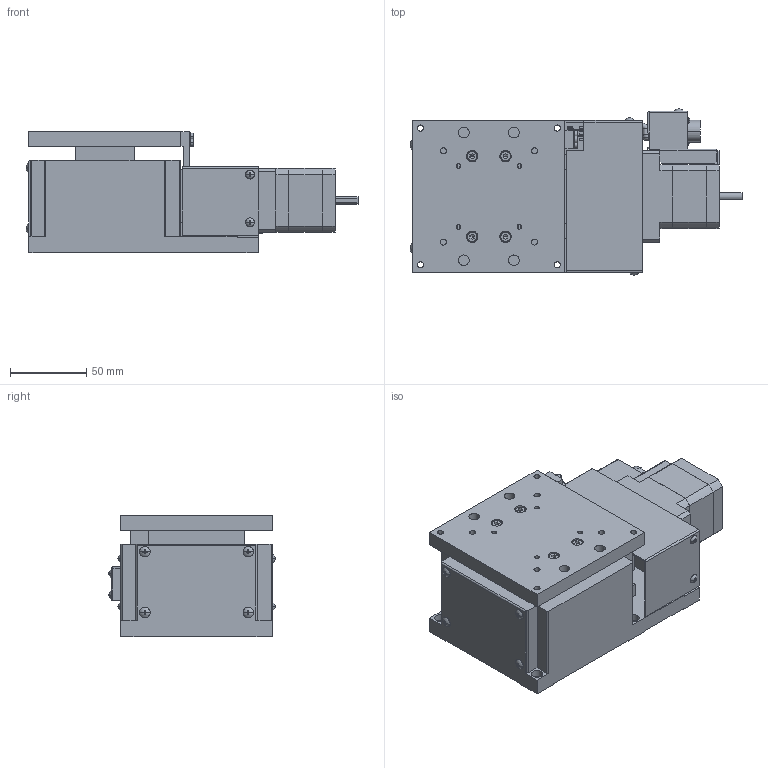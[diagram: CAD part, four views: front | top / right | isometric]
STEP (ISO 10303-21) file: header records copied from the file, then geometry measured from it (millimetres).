
FILE_DESCRIPTION (( 'STEP AP203' ), '1' );
FILE_NAME ('ZA10A-W202.STEP', '2019-02-21T00:42:14', ( '' ), ( '' ), 'SwSTEP 2.0', 'SolidWorks 2018', '' );
FILE_SCHEMA (( 'CONFIG_CONTROL_DESIGN' ));
Length unit declared in the file: millimetre
Products named in the file (3): table; base; ZA10A-W202
Assembly tree (2 placements, depth 2):
  ZA10A-W202
    table
    base
Bounding box: 218.39 x 109.37 x 80 mm (x, y, z)
Volume: 848616.9 mm3; surface area: 156152.7 mm2
Topology: 2 solids, 6 shells, 1916 faces, 4790 edges, 2953 vertices
Faces by surface type: plane 1179, cylinder 453, cone 200, torus 50, sphere 34
Entity records: 57303 total; most frequent: CARTESIAN_POINT 10450, DIRECTION 10138, ORIENTED_EDGE 9436, EDGE_CURVE 4718, AXIS2_PLACEMENT_3D 3619, VERTEX_POINT 2947, VECTOR 2900, LINE 2900
